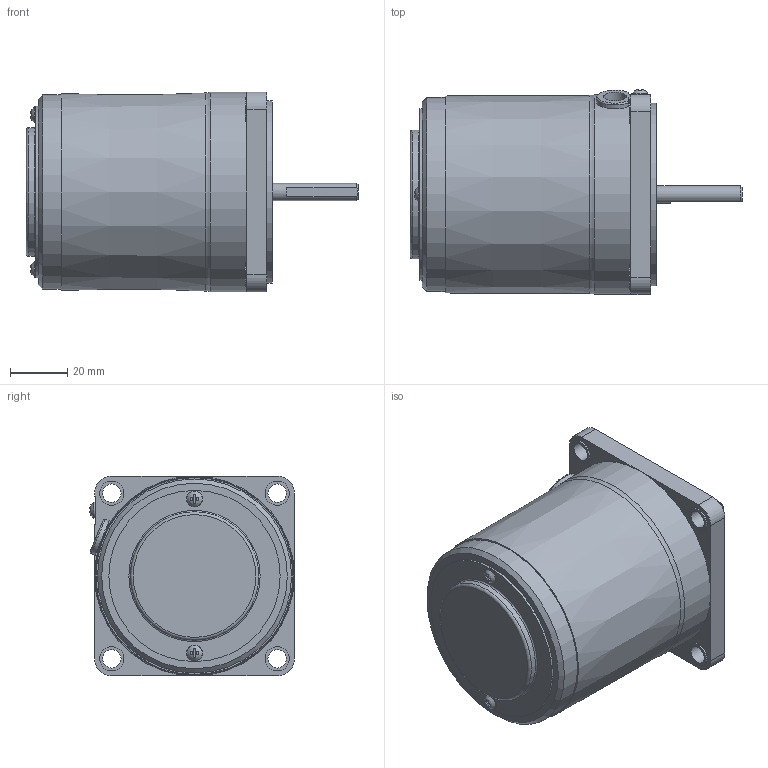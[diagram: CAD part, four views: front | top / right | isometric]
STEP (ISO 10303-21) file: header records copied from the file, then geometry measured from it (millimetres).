
FILE_DESCRIPTION(/* description */ (''),/* implementation_level */ '2;1');
FILE_NAME(/* name */ 'E:\도면작업\2016\0704) 미주향 SG 도면\3D MOTOR\SG6R\SG7R15D\SG7R15D_.stp',/* time_stamp */ '2016-12-12T16:25:42+09:00',/* author */ ('jy-jung'),/* organization */ (''),/* preprocessor_version */ 'ST-DEVELOPER v15.6',/* originating_system */ 'Autodesk Inventor 2015',/* authorisation */ '');
FILE_SCHEMA (('AUTOMOTIVE_DESIGN { 1 0 10303 214 3 1 1 }'));
Length unit declared in the file: millimetre
Products named in the file (1): 부품5
Bounding box: 116.3 x 71.76 x 70 mm (x, y, z)
Volume: 308471.6 mm3; surface area: 34658.2 mm2
Topology: 1 solids, 5 shells, 161 faces, 395 edges, 261 vertices
Faces by surface type: plane 104, cylinder 41, torus 10, bspline 3, cone 3
Full cylindrical faces by diameter (mm): 3 x2, 3.5 x2, 5.6 x3, 6 x1, 6.5 x4, 8 x1, 8.5 x4, 10 x1, 28 x1, 43 x1, 45 x1, 60 x1, 64 x1, 68 x1, 70 x1
Entity records: 4973 total; most frequent: CARTESIAN_POINT 1134, DIRECTION 733, ORIENTED_EDGE 702, EDGE_CURVE 351, AXIS2_PLACEMENT_3D 272, VERTEX_POINT 254, EDGE_LOOP 229, LINE 189
